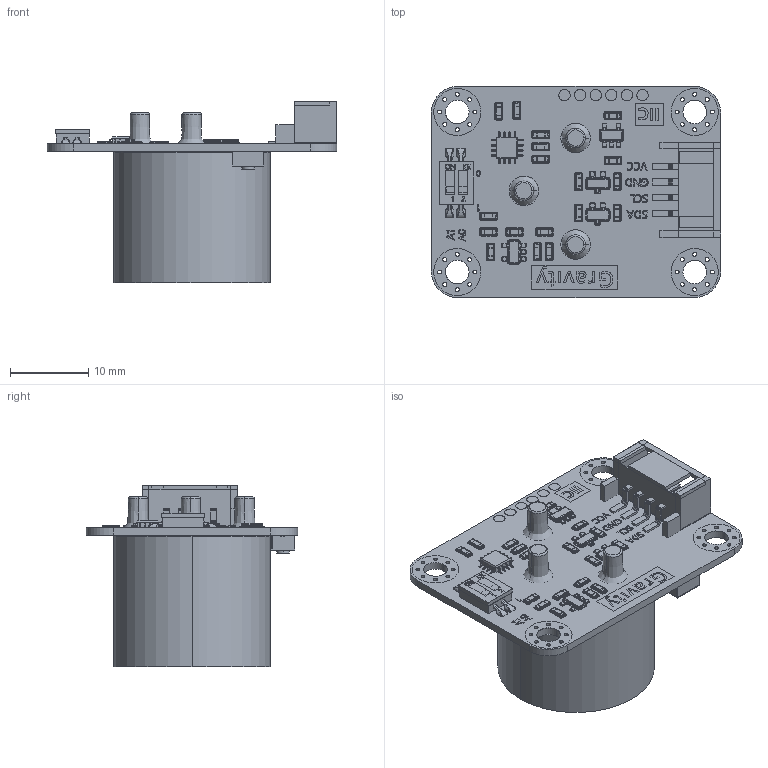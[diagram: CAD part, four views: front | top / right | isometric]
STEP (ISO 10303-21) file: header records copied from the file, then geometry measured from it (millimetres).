
FILE_DESCRIPTION(/* description */ (''),/* implementation_level */ '2;1');
FILE_NAME(/* name */ 'SEN032~2',/* time_stamp */ '2020-06-18T09:29:38+08:00',/* author */ (''),/* organization */ (''),/* preprocessor_version */ 'ST-DEVELOPER v15',/* originating_system */ '',/* authorisation */ '');
FILE_SCHEMA (('AUTOMOTIVE_DESIGN'));
Products named in the file (29): Document; R134; 1059058768; Extruded385; 1335969232; Extruded391; 1335967872; Extruded19; 1335968960; Extruded314; 1335969368; Extruded311; 1335965696; Extruded185; 1335965424; Extruded136; 1335969096; Extruded304; R109; 612518720; Extruded251; 612518584; Extruded249; 612518448; Extruded228; 612518312; Extruded207; 804459408; Cylinder216
Assembly tree (36 placements, depth 4):
  Document
    R134
      1059058768  x4
        Extruded385
      1335969232
        Extruded391
      1335967872  x2
        Extruded19
      1335968960
        Extruded314
      1335969368
        Extruded311
      1335965696  x2
        Extruded185
      1335965424  x2
        Extruded136
      1335969096
        Extruded304
    R109
      612518720  x2
        Extruded251
      612518584
        Extruded249
      612518448  x2
        Extruded228
      612518312
        Extruded207
      804459408
        Cylinder216
Bounding box: 37 x 27 x 23.21 mm (x, y, z)
Volume: 6445.4 mm3; surface area: 5480.9 mm2
Topology: 84 solids, 232 shells, 2667 faces, 6925 edges, 4575 vertices
Faces by surface type: bspline 1839, plane 828
Entity records: 116310 total; most frequent: CARTESIAN_POINT 78073, ORIENTED_EDGE 11754, EDGE_CURVE 6376, VERTEX_POINT 4163, EDGE_LOOP 2699, ADVANCED_FACE 2514, FACE_OUTER_BOUND 2514, B_SPLINE_CURVE_WITH_KNOTS 2274
